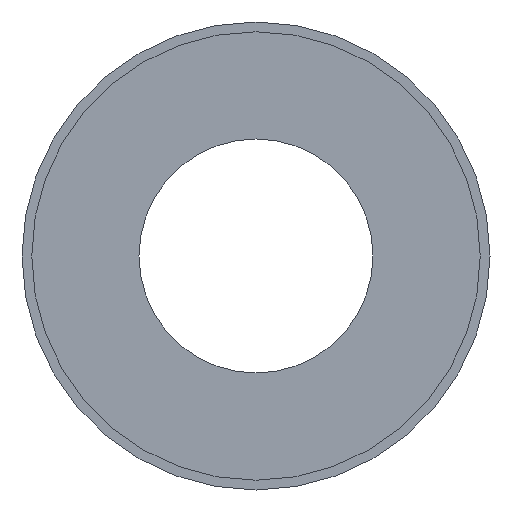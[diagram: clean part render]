
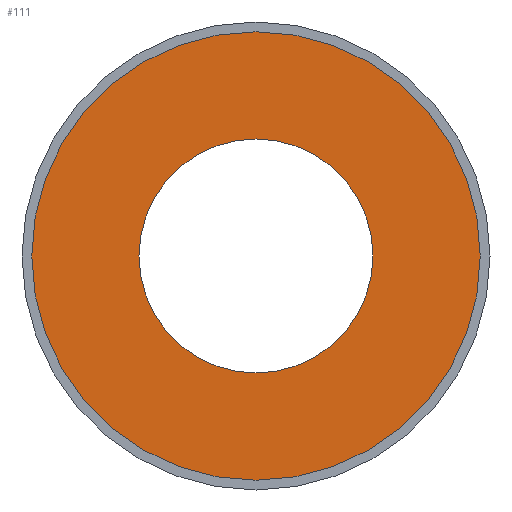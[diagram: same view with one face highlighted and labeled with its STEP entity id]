
A CAD part, front view. The second image highlights one B-rep face of the part: STEP entity #111.
In plain terms, the highlighted planar face has unit normal (0, -1, 0).
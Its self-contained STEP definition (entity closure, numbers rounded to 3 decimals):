
#9 = EDGE_CURVE ( 'NONE', #343, #86, #44, .T. ) ;
#12 = CARTESIAN_POINT ( 'NONE',  ( 0., 2.54, 0. ) ) ;
#26 = CIRCLE ( 'NONE', #354, 12. ) ;
#33 = CARTESIAN_POINT ( 'NONE',  ( 0., 2.54, -23. ) ) ;
#37 = CARTESIAN_POINT ( 'NONE',  ( 0., 2.54, 0. ) ) ;
#44 = CIRCLE ( 'NONE', #329, 23. ) ;
#47 = CARTESIAN_POINT ( 'NONE',  ( 0., 2.54, 12. ) ) ;
#54 = ORIENTED_EDGE ( 'NONE', *, *, #140, .F. ) ;
#62 = FACE_BOUND ( 'NONE', #78, .T. ) ;
#64 = DIRECTION ( 'NONE',  ( 0., -1., 0. ) ) ;
#65 = ORIENTED_EDGE ( 'NONE', *, *, #9, .T. ) ;
#66 = EDGE_CURVE ( 'NONE', #282, #222, #341, .T. ) ;
#76 = CARTESIAN_POINT ( 'NONE',  ( 0., 2.54, -12. ) ) ;
#78 = EDGE_LOOP ( 'NONE', ( #193, #54 ) ) ;
#86 = VERTEX_POINT ( 'NONE', #33 ) ;
#93 = CARTESIAN_POINT ( 'NONE',  ( 12., 2.54, 0. ) ) ;
#95 = CARTESIAN_POINT ( 'NONE',  ( 0., 2.54, 0. ) ) ;
#98 = DIRECTION ( 'NONE',  ( 0., 0., -1. ) ) ;
#111 = ADVANCED_FACE ( 'NONE', ( #203, #62 ), #120, .T. ) ;
#116 = EDGE_LOOP ( 'NONE', ( #171, #65 ) ) ;
#117 = CARTESIAN_POINT ( 'NONE',  ( 0., 2.54, 0. ) ) ;
#120 = PLANE ( 'NONE',  #167 ) ;
#140 = EDGE_CURVE ( 'NONE', #222, #282, #26, .T. ) ;
#154 = DIRECTION ( 'NONE',  ( 0., -1., 0. ) ) ;
#167 = AXIS2_PLACEMENT_3D ( 'NONE', #93, #205, #295 ) ;
#171 = ORIENTED_EDGE ( 'NONE', *, *, #356, .T. ) ;
#191 = AXIS2_PLACEMENT_3D ( 'NONE', #95, #154, #358 ) ;
#193 = ORIENTED_EDGE ( 'NONE', *, *, #66, .F. ) ;
#203 = FACE_OUTER_BOUND ( 'NONE', #116, .T. ) ;
#205 = DIRECTION ( 'NONE',  ( 0., -1., 0. ) ) ;
#215 = DIRECTION ( 'NONE',  ( 0., -1., 0. ) ) ;
#222 = VERTEX_POINT ( 'NONE', #47 ) ;
#244 = CIRCLE ( 'NONE', #273, 23. ) ;
#259 = CARTESIAN_POINT ( 'NONE',  ( 0., 2.54, 23. ) ) ;
#273 = AXIS2_PLACEMENT_3D ( 'NONE', #117, #64, #359 ) ;
#282 = VERTEX_POINT ( 'NONE', #76 ) ;
#295 = DIRECTION ( 'NONE',  ( 0., 0., -1. ) ) ;
#299 = DIRECTION ( 'NONE',  ( 0., 0., -1. ) ) ;
#329 = AXIS2_PLACEMENT_3D ( 'NONE', #37, #360, #98 ) ;
#341 = CIRCLE ( 'NONE', #191, 12. ) ;
#343 = VERTEX_POINT ( 'NONE', #259 ) ;
#354 = AXIS2_PLACEMENT_3D ( 'NONE', #12, #215, #299 ) ;
#356 = EDGE_CURVE ( 'NONE', #86, #343, #244, .T. ) ;
#358 = DIRECTION ( 'NONE',  ( 0., 0., -1. ) ) ;
#359 = DIRECTION ( 'NONE',  ( 0., 0., -1. ) ) ;
#360 = DIRECTION ( 'NONE',  ( 0., -1., 0. ) ) ;
